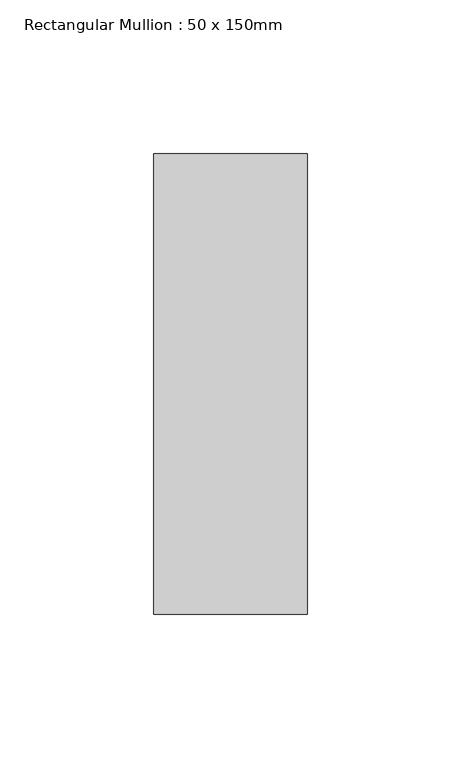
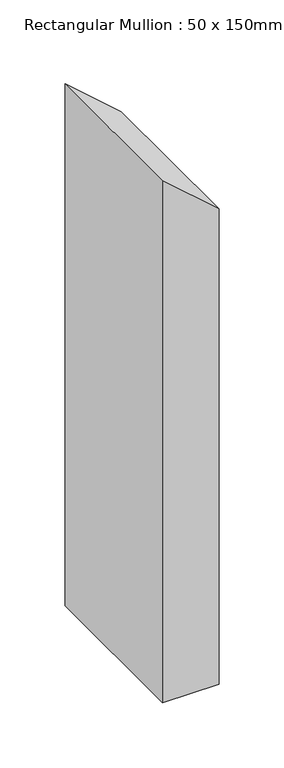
"""IFC4 building model written with IfcOpenShell, lengths in millimetres: member geometry, Rectangular Mullion : 50 x 150mm."""

from ifc_helpers import new_model, si_unit, frame, origin, place, context, project, spatial, polyline, outline, extrude, source, transform, mapped, element, save


def rectangular_mullion_50_x_150mm_aab4a1d6(model_context):
    return source(origin(), model_context, "Body", "SweptSolid", [
        extrude(outline(polyline([(-88.415239, 25.0), (-44.5773716, -25.0), (-534.1959652, -25.0), (-534.1959652, 25.0), (-88.415239, 25.0)])), frame((0.0, -75.0, 0.0), z_axis=(0.0, 1.0, 0.0), x_axis=(0.0, 0.0, 1.0)), (0.0, 0.0, 1.0), 150.0),
    ])


if __name__ == "__main__":
    model = new_model("IFC4")
    model_context = context("Model", 3, world=origin())
    ifc_project = project(units=[si_unit("LENGTHUNIT", "METRE", prefix="MILLI")], contexts=[model_context])
    site = spatial("IfcSite", under=ifc_project)
    building = spatial("IfcBuilding", under=site)
    placement = place(None, origin())
    rectangular_mullion_50_x_150mm_shape = rectangular_mullion_50_x_150mm_aab4a1d6(model_context)
    element("IfcMember", 1, ObjectType="Rectangular Mullion : 50 x 150mm", at=placement, inside=building, context=model_context, shape_type="MappedRepresentation", body=[
        mapped(rectangular_mullion_50_x_150mm_shape, transform((0.0, 0.0, 0.0), x_axis=(1.0, 0.0, 0.0), y_axis=(0.0, 1.0, 0.0), z_axis=(0.0, 0.0, 1.0))),
    ])
    save(model, "model.ifc")
